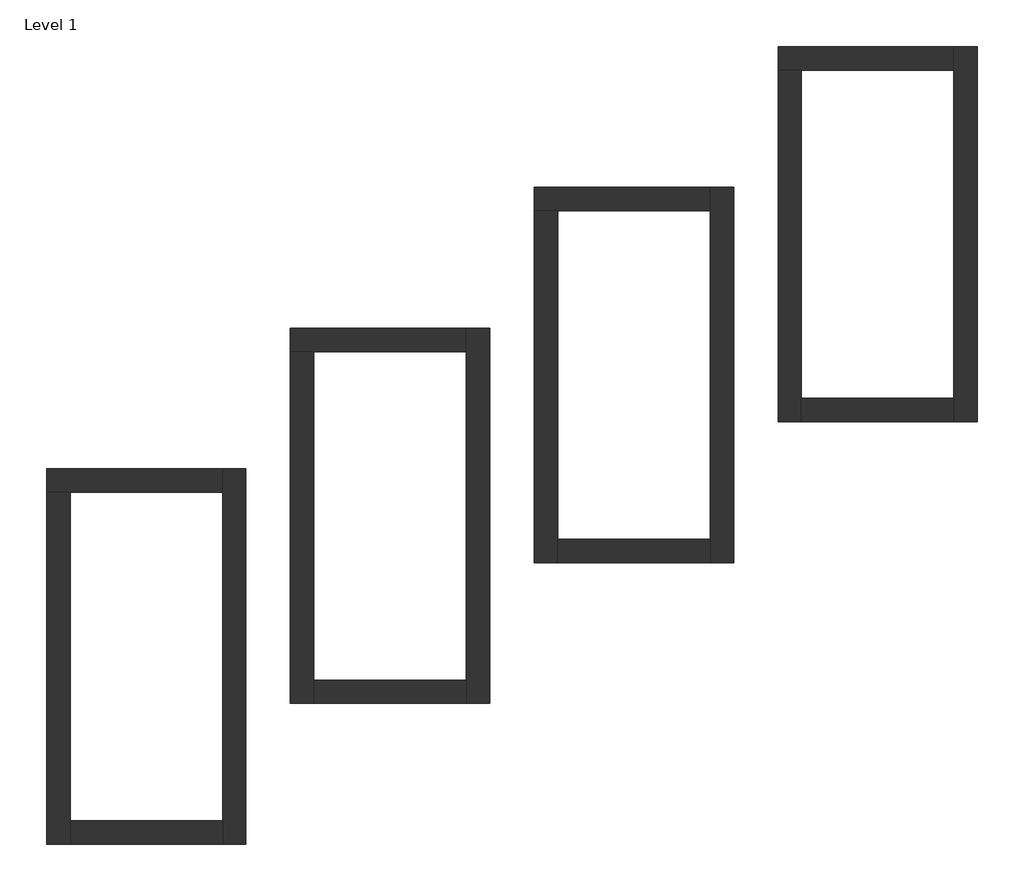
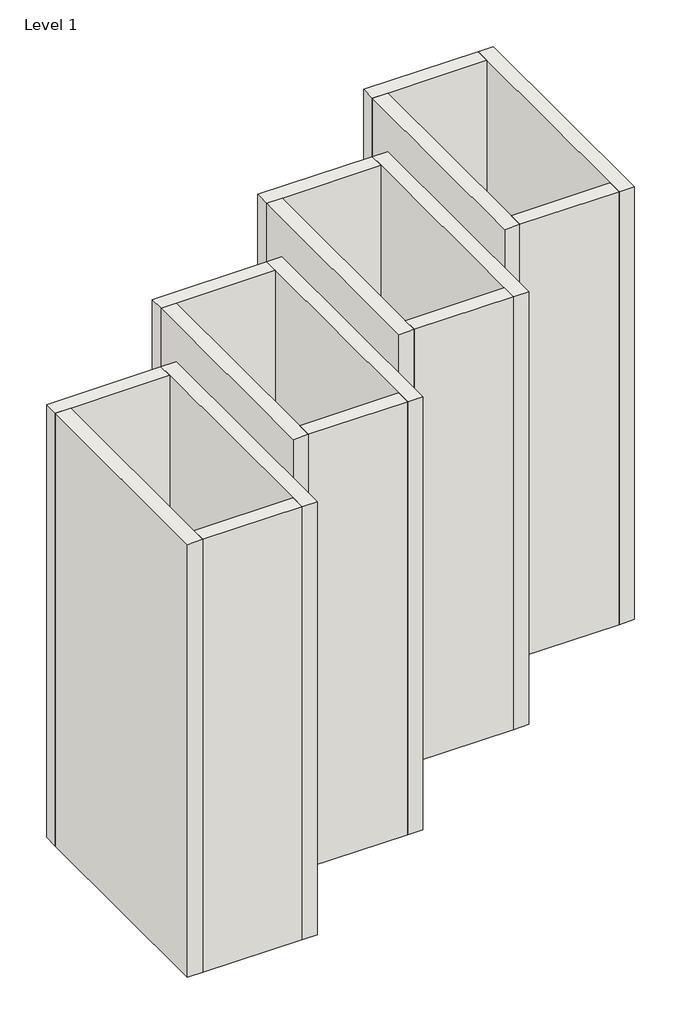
# One storey: 16 walls.
"""IFC4 building model written with IfcOpenShell, lengths in millimetres."""

import ifcopenshell
import ifcopenshell.guid

model = None  # the IFC model being written
_history = None  # IfcOwnerHistory: only IFC2X3 demands one
_inside = {}  # id of a spatial element -> (the spatial element, [elements in it])
_under = {}  # id of a project, library or spatial element -> (it, [spatial elements below it])
_declared = {}  # id of a project -> (the project, [libraries it declares])
_typed = {}  # id of a type object -> (the type object, [elements of that type])
_made_of = {}  # id of a material, layer set ... -> (it, [elements and type objects made of it])


def new_model(schema):
    """Start an empty IFC model of exactly this schema.

    Asked for "IFC4X3", IfcOpenShell would pick the latest addendum, in which some entities
    have other attributes; the version numbers below select the first issue.
    IFC2X3 requires an IfcOwnerHistory on every rooted entity: one is made here for all.
    """
    global model, _history
    if schema == "IFC4X3":
        model = ifcopenshell.file(schema_version=(4, 3, 0, 0))
    else:
        model = ifcopenshell.file(schema=schema)
    _inside.clear()
    _under.clear()
    _declared.clear()
    _typed.clear()
    _made_of.clear()
    _history = None
    if model.schema == "IFC2X3":
        org = make("IfcOrganization", Name="unknown")
        user = make(
            "IfcPersonAndOrganization",
            ThePerson=make("IfcPerson", FamilyName="unknown"),
            TheOrganization=org,
        )
        app = make(
            "IfcApplication",
            ApplicationDeveloper=org,
            Version="unknown",
            ApplicationFullName="unknown",
            ApplicationIdentifier="unknown",
        )
        _history = make(
            "IfcOwnerHistory",
            OwningUser=user,
            OwningApplication=app,
            ChangeAction="ADDED",
            CreationDate=0,
        )
    return model


def make(cls, **values):
    """One entity of the class cls with the attributes given. An attribute that is None is left unset."""
    return model.create_entity(
        cls, **{name: value for name, value in values.items() if value is not None}
    )


def rooted(cls, **values):
    """An entity with a GlobalId (a new one), such as an element, a storey or a relation."""
    return make(cls, GlobalId=ifcopenshell.guid.new(), OwnerHistory=_history, **values)


def si_unit(unit_type, name, prefix=None):
    """IfcSIUnit, for example si_unit("LENGTHUNIT", "METRE", prefix="MILLI")."""
    return make("IfcSIUnit", UnitType=unit_type, Prefix=prefix, Name=name)


def assignment(units):
    """IfcUnitAssignment: the units of a project."""
    return None if units is None else make("IfcUnitAssignment", Units=units)


def point(xyz):
    """IfcCartesianPoint."""
    return None if xyz is None else make("IfcCartesianPoint", Coordinates=xyz)


def direction(xyz):
    """IfcDirection."""
    return None if xyz is None else make("IfcDirection", DirectionRatios=xyz)


def frame(location, z_axis=None, x_axis=None):
    """IfcAxis2Placement3D, a coordinate frame: its origin and axes. An axis left out is left unset."""
    return make(
        "IfcAxis2Placement3D",
        Location=point(location),
        Axis=direction(z_axis),
        RefDirection=direction(x_axis),
    )


def origin():
    """The frame at (0, 0, 0) with its axes left unset."""
    return frame((0.0, 0.0, 0.0))


def origin_with_axes():
    """The frame at (0, 0, 0) with the z axis (0, 0, 1) and the x axis (1, 0, 0) written out."""
    return frame((0.0, 0.0, 0.0), z_axis=(0.0, 0.0, 1.0), x_axis=(1.0, 0.0, 0.0))


def place(relative_to, where):
    """IfcLocalPlacement: puts the frame where relative to a parent placement (None: the world)."""
    return make(
        "IfcLocalPlacement", PlacementRelTo=relative_to, RelativePlacement=where
    )


def context(
    kind, dimensions, precision=None, world=None, true_north=None, identifier=None
):
    """IfcGeometricRepresentationContext, for example the 3D "Model" context."""
    return make(
        "IfcGeometricRepresentationContext",
        ContextIdentifier=identifier,
        ContextType=kind,
        CoordinateSpaceDimension=dimensions,
        Precision=precision,
        WorldCoordinateSystem=world,
        TrueNorth=true_north,
    )


def project(units=None, contexts=None):
    """IfcProject with its units and contexts."""
    return rooted(
        "IfcProject",
        Name="project",
        RepresentationContexts=contexts,
        UnitsInContext=assignment(units),
    )


def spatial(cls, under=None, at=None, **own):
    """A site, building, storey or space (cls), placed at a placement, below another one or the project."""
    s = rooted(cls, ObjectPlacement=at, **own)
    if under is not None:
        _under.setdefault(under.id(), (under, []))[1].append(s)
    return s


def polyline(points):
    """IfcPolyline through the points."""
    return make("IfcPolyline", Points=[point(p) for p in points])


def outline(outer, holes=None, kind="AREA"):
    """IfcArbitraryClosedProfileDef: a profile drawn as a closed curve; with holes, ...WithVoids."""
    if holes is None:
        return make("IfcArbitraryClosedProfileDef", ProfileType=kind, OuterCurve=outer)
    return make(
        "IfcArbitraryProfileDefWithVoids",
        ProfileType=kind,
        OuterCurve=outer,
        InnerCurves=holes,
    )


def extrude(swept, where, along, depth):
    """IfcExtrudedAreaSolid: the profile swept, set in the frame where, extruded along a direction by depth."""
    return make(
        "IfcExtrudedAreaSolid",
        SweptArea=swept,
        Position=where,
        ExtrudedDirection=direction(along),
        Depth=depth,
    )


def faces_of(points, faces, orient=None, outer=None):
    """IfcFace entities. A face is a list of loops; a loop is a list of indices into points, from 0.

    orient and outer hold one flag for each loop. By default every Orientation is true, the
    first loop of a face is its IfcFaceOuterBound and the others are IfcFaceBound.
    """
    made = []
    for i, loops in enumerate(faces):
        bounds = []
        for j, loop in enumerate(loops):
            is_outer = j == 0 if outer is None else outer[i][j]
            bounds.append(
                make(
                    "IfcFaceOuterBound" if is_outer else "IfcFaceBound",
                    Bound=make("IfcPolyLoop", Polygon=[points[k] for k in loop]),
                    Orientation=True if orient is None else orient[i][j],
                )
            )
        made.append(make("IfcFace", Bounds=bounds))
    return made


def faceted_brep(points, faces, orient=None, outer=None, voids=None):
    """IfcFacetedBrep: a solid bounded by flat faces; with voids (closed shells), ...WithVoids."""
    shared = [point(p) for p in points]
    hull = make("IfcClosedShell", CfsFaces=faces_of(shared, faces, orient, outer))
    if voids is None:
        return make("IfcFacetedBrep", Outer=hull)
    return make(
        "IfcFacetedBrepWithVoids",
        Outer=hull,
        Voids=[
            make(cls, CfsFaces=faces_of(shared, fs, o, b)) for cls, fs, o, b in voids
        ],
    )


def shape(context_of_items, identifier, shape_type, items):
    """IfcShapeRepresentation: the items that make up one representation, for example the "Body"."""
    return make(
        "IfcShapeRepresentation",
        ContextOfItems=context_of_items,
        RepresentationIdentifier=identifier,
        RepresentationType=shape_type,
        Items=items,
    )


def made_of(thing, what):
    """Note that an element or type object is made of a material, layer set ...; save() writes the relation."""
    if what is not None:
        _made_of.setdefault(what.id(), (what, []))[1].append(thing)
    return thing


def element(
    cls,
    number,
    at=None,
    inside=None,
    cuts=None,
    type_object=None,
    material=None,
    context=None,
    identifier="Body",
    shape_type=None,
    held_by="IfcProductDefinitionShape",
    body=None,
    shapes=None,
    **own,
):
    """One element of the class cls, such as IfcWall. Its Tag is "e" and its number.

    at: its placement. inside: the storey or other place that contains it. cuts: it is an
    opening in that element (IfcRelVoidsElement). A single representation is given by context,
    identifier, shape_type and body (its items); several are given by shapes. held_by: the class
    of the entity that holds the representations. save() writes the other relations.
    """
    e = rooted(cls, Tag="e%d" % number, ObjectPlacement=at, **own)
    if body is not None:
        shapes = [shape(context, identifier, shape_type, body)]
    if shapes is not None:
        e.Representation = make(held_by, Representations=shapes)
    if inside is not None:
        _inside.setdefault(inside.id(), (inside, []))[1].append(e)
    if cuts is not None:
        rooted(
            "IfcRelVoidsElement", RelatingBuildingElement=cuts, RelatedOpeningElement=e
        )
    if type_object is not None:
        _typed.setdefault(type_object.id(), (type_object, []))[1].append(e)
    return made_of(e, material)


def aggregate(whole, parts):
    """IfcRelAggregates: a whole, such as a stair, and the parts it consists of."""
    return rooted("IfcRelAggregates", RelatingObject=whole, RelatedObjects=parts)


def save(model, path):
    """Write the relations noted so far, then the file.

    IfcRelAggregates (storeys below a building ...), IfcRelContainedInSpatialStructure (elements
    in a storey), IfcRelDefinesByType, IfcRelAssociatesMaterial and IfcRelDeclares: one each for
    every whole, place, type object, material and project.
    """
    for whole, parts in _under.values():
        aggregate(whole, parts)
    for where, things in _inside.values():
        rooted(
            "IfcRelContainedInSpatialStructure",
            RelatedElements=things,
            RelatingStructure=where,
        )
    for kind, things in _typed.values():
        rooted("IfcRelDefinesByType", RelatedObjects=things, RelatingType=kind)
    for what, things in _made_of.values():
        rooted("IfcRelAssociatesMaterial", RelatedObjects=things, RelatingMaterial=what)
    for by, libraries in _declared.values():
        rooted("IfcRelDeclares", RelatingContext=by, RelatedDefinitions=libraries)
    model.write(path)


model = new_model("IFC4")

# Units and contexts
model_context = context("Model", 3, world=origin())
ifc_project = project(units=[si_unit("LENGTHUNIT", "METRE", prefix="MILLI")], contexts=[model_context])

# Site, building, storey
site = spatial("IfcSite", under=ifc_project)
building = spatial("IfcBuilding", under=site)
storey = spatial("IfcBuildingStorey", under=building, Name="Level 1", Elevation=0.0)

# Walls
placement = place(None, origin())
element("IfcWall", 1, ObjectType="Generic - 8\"", at=placement, inside=storey, context=model_context, shape_type="Brep", body=[
    faceted_brep([(-852.706997, 219.0388617, 0.0), (-649.506997, 219.0388617, 0.0), (671.293003, 219.0388617, 0.0), (671.293003, 219.0388617, 6096.0), (-649.506997, 219.0388617, 6096.0), (-852.706997, 219.0388617, 6096.0), (-852.706997, 422.2388617, 0.0), (-852.706997, 422.2388617, 6096.0), (671.293003, 422.2388617, 6096.0), (671.293003, 422.2388617, 0.0)], [[[0, 1, 2, 3, 4, 5]], [[6, 7, 8, 9]], [[2, 1, 0, 6, 9]], [[5, 4, 3, 8, 7]], [[0, 5, 7, 6]], [[3, 2, 9, 8]]]),
])
element("IfcWall", 2, ObjectType="Generic - 8\"", at=placement, inside=storey, context=model_context, shape_type="Brep", body=[
    faceted_brep([(-649.506997, -2828.9611383, 0.0), (-649.506997, -2625.7611383, 0.0), (-649.506997, 219.0388617, 0.0), (-649.506997, 219.0388617, 6096.0), (-649.506997, -2625.7611383, 6096.0), (-649.506997, -2828.9611383, 6096.0), (-852.706997, -2828.9611383, 0.0), (-852.706997, -2828.9611383, 6096.0), (-852.706997, 219.0388617, 6096.0), (-852.706997, 219.0388617, 0.0)], [[[0, 1, 2, 3, 4, 5]], [[6, 7, 8, 9]], [[2, 1, 0, 6, 9]], [[5, 4, 3, 8, 7]], [[0, 5, 7, 6]], [[3, 2, 9, 8]]]),
])
element("IfcWall", 3, ObjectType="Generic - 8\"", at=placement, inside=storey, context=model_context, shape_type="SweptSolid", body=[
    extrude(outline(polyline([(-649.506997, -2625.7611383), (671.293003, -2625.7611383), (671.293003, -2828.9611383), (-649.506997, -2828.9611383), (-649.506997, -2625.7611383)])), origin_with_axes(), (0.0, 0.0, 1.0), 6096.0),
])
element("IfcWall", 4, ObjectType="Generic - 8\"", at=placement, inside=storey, context=model_context, shape_type="Brep", body=[
    faceted_brep([(671.293003, 422.2388617, 0.0), (671.293003, 219.0388617, 0.0), (671.293003, -2625.7611383, 0.0), (671.293003, -2828.9611383, 0.0), (671.293003, -2828.9611383, 6096.0), (671.293003, -2625.7611383, 6096.0), (671.293003, 219.0388617, 6096.0), (671.293003, 422.2388617, 6096.0), (874.493003, 422.2388617, 0.0), (874.493003, 422.2388617, 6096.0), (874.493003, -2828.9611383, 6096.0), (874.493003, -2828.9611383, 0.0)], [[[0, 1, 2, 3, 4, 5, 6, 7]], [[8, 9, 10, 11]], [[3, 2, 1, 0, 8, 11]], [[7, 6, 5, 4, 10, 9]], [[0, 7, 9, 8]], [[4, 3, 11, 10]]]),
])
element("IfcWall", 5, ObjectType="Generic - 8\"", at=placement, inside=storey, context=model_context, shape_type="Brep", body=[
    faceted_brep([(1259.0093476, 1438.2388617, 0.0), (1462.2093476, 1438.2388617, 0.0), (2783.0093476, 1438.2388617, 0.0), (2783.0093476, 1438.2388617, 6096.0), (1462.2093476, 1438.2388617, 6096.0), (1259.0093476, 1438.2388617, 6096.0), (1259.0093476, 1641.4388617, 0.0), (1259.0093476, 1641.4388617, 6096.0), (2783.0093476, 1641.4388617, 6096.0), (2783.0093476, 1641.4388617, 0.0)], [[[0, 1, 2, 3, 4, 5]], [[6, 7, 8, 9]], [[2, 1, 0, 6, 9]], [[5, 4, 3, 8, 7]], [[0, 5, 7, 6]], [[3, 2, 9, 8]]]),
])
element("IfcWall", 6, ObjectType="Generic - 8\"", at=placement, inside=storey, context=model_context, shape_type="Brep", body=[
    faceted_brep([(1462.2093476, -1609.7611383, 0.0), (1462.2093476, -1406.5611383, 0.0), (1462.2093476, 1438.2388617, 0.0), (1462.2093476, 1438.2388617, 6096.0), (1462.2093476, -1406.5611383, 6096.0), (1462.2093476, -1609.7611383, 6096.0), (1259.0093476, -1609.7611383, 0.0), (1259.0093476, -1609.7611383, 6096.0), (1259.0093476, 1438.2388617, 6096.0), (1259.0093476, 1438.2388617, 0.0)], [[[0, 1, 2, 3, 4, 5]], [[6, 7, 8, 9]], [[2, 1, 0, 6, 9]], [[5, 4, 3, 8, 7]], [[0, 5, 7, 6]], [[3, 2, 9, 8]]]),
])
element("IfcWall", 7, ObjectType="Generic - 8\"", at=placement, inside=storey, context=model_context, shape_type="SweptSolid", body=[
    extrude(outline(polyline([(1462.2093476, -1406.5611383), (2783.0093476, -1406.5611383), (2783.0093476, -1609.7611383), (1462.2093476, -1609.7611383), (1462.2093476, -1406.5611383)])), origin_with_axes(), (0.0, 0.0, 1.0), 6096.0),
])
element("IfcWall", 8, ObjectType="Generic - 8\"", at=placement, inside=storey, context=model_context, shape_type="Brep", body=[
    faceted_brep([(2783.0093476, 1641.4388617, 0.0), (2783.0093476, 1438.2388617, 0.0), (2783.0093476, -1406.5611383, 0.0), (2783.0093476, -1609.7611383, 0.0), (2783.0093476, -1609.7611383, 6096.0), (2783.0093476, -1406.5611383, 6096.0), (2783.0093476, 1438.2388617, 6096.0), (2783.0093476, 1641.4388617, 6096.0), (2986.2093476, 1641.4388617, 0.0), (2986.2093476, 1641.4388617, 6096.0), (2986.2093476, -1609.7611383, 6096.0), (2986.2093476, -1609.7611383, 0.0)], [[[0, 1, 2, 3, 4, 5, 6, 7]], [[8, 9, 10, 11]], [[3, 2, 1, 0, 8, 11]], [[7, 6, 5, 4, 10, 9]], [[0, 7, 9, 8]], [[4, 3, 11, 10]]]),
])
element("IfcWall", 9, ObjectType="Generic - 8\"", at=placement, inside=storey, context=model_context, shape_type="Brep", body=[
    faceted_brep([(3370.7256922, 2657.4388617, 0.0), (3573.9256922, 2657.4388617, 0.0), (4894.7256922, 2657.4388617, 0.0), (4894.7256922, 2657.4388617, 6096.0), (3573.9256922, 2657.4388617, 6096.0), (3370.7256922, 2657.4388617, 6096.0), (3370.7256922, 2860.6388617, 0.0), (3370.7256922, 2860.6388617, 6096.0), (4894.7256922, 2860.6388617, 6096.0), (4894.7256922, 2860.6388617, 0.0)], [[[0, 1, 2, 3, 4, 5]], [[6, 7, 8, 9]], [[2, 1, 0, 6, 9]], [[5, 4, 3, 8, 7]], [[0, 5, 7, 6]], [[3, 2, 9, 8]]]),
])
element("IfcWall", 10, ObjectType="Generic - 8\"", at=placement, inside=storey, context=model_context, shape_type="Brep", body=[
    faceted_brep([(3573.9256922, -390.5611383, 0.0), (3573.9256922, -187.3611383, 0.0), (3573.9256922, 2657.4388617, 0.0), (3573.9256922, 2657.4388617, 6096.0), (3573.9256922, -187.3611383, 6096.0), (3573.9256922, -390.5611383, 6096.0), (3370.7256922, -390.5611383, 0.0), (3370.7256922, -390.5611383, 6096.0), (3370.7256922, 2657.4388617, 6096.0), (3370.7256922, 2657.4388617, 0.0)], [[[0, 1, 2, 3, 4, 5]], [[6, 7, 8, 9]], [[2, 1, 0, 6, 9]], [[5, 4, 3, 8, 7]], [[0, 5, 7, 6]], [[3, 2, 9, 8]]]),
])
element("IfcWall", 11, ObjectType="Generic - 8\"", at=placement, inside=storey, context=model_context, shape_type="SweptSolid", body=[
    extrude(outline(polyline([(3573.9256922, -187.3611383), (4894.7256922, -187.3611383), (4894.7256922, -390.5611383), (3573.9256922, -390.5611383), (3573.9256922, -187.3611383)])), origin_with_axes(), (0.0, 0.0, 1.0), 6096.0),
])
element("IfcWall", 12, ObjectType="Generic - 8\"", at=placement, inside=storey, context=model_context, shape_type="Brep", body=[
    faceted_brep([(4894.7256922, 2860.6388617, 0.0), (4894.7256922, 2657.4388617, 0.0), (4894.7256922, -187.3611383, 0.0), (4894.7256922, -390.5611383, 0.0), (4894.7256922, -390.5611383, 6096.0), (4894.7256922, -187.3611383, 6096.0), (4894.7256922, 2657.4388617, 6096.0), (4894.7256922, 2860.6388617, 6096.0), (5097.9256922, 2860.6388617, 0.0), (5097.9256922, 2860.6388617, 6096.0), (5097.9256922, -390.5611383, 6096.0), (5097.9256922, -390.5611383, 0.0)], [[[0, 1, 2, 3, 4, 5, 6, 7]], [[8, 9, 10, 11]], [[3, 2, 1, 0, 8, 11]], [[7, 6, 5, 4, 10, 9]], [[0, 7, 9, 8]], [[4, 3, 11, 10]]]),
])
element("IfcWall", 13, ObjectType="Generic - 8\"", at=placement, inside=storey, context=model_context, shape_type="Brep", body=[
    faceted_brep([(5482.4420367, 3876.6388617, 0.0), (5685.6420367, 3876.6388617, 0.0), (7006.4420367, 3876.6388617, 0.0), (7006.4420367, 3876.6388617, 6096.0), (5685.6420367, 3876.6388617, 6096.0), (5482.4420367, 3876.6388617, 6096.0), (5482.4420367, 4079.8388617, 0.0), (5482.4420367, 4079.8388617, 6096.0), (7006.4420367, 4079.8388617, 6096.0), (7006.4420367, 4079.8388617, 0.0)], [[[0, 1, 2, 3, 4, 5]], [[6, 7, 8, 9]], [[2, 1, 0, 6, 9]], [[5, 4, 3, 8, 7]], [[0, 5, 7, 6]], [[3, 2, 9, 8]]]),
])
element("IfcWall", 14, ObjectType="Generic - 8\"", at=placement, inside=storey, context=model_context, shape_type="Brep", body=[
    faceted_brep([(5685.6420367, 828.6388617, 0.0), (5685.6420367, 1031.8388617, 0.0), (5685.6420367, 3876.6388617, 0.0), (5685.6420367, 3876.6388617, 6096.0), (5685.6420367, 1031.8388617, 6096.0), (5685.6420367, 828.6388617, 6096.0), (5482.4420367, 828.6388617, 0.0), (5482.4420367, 828.6388617, 6096.0), (5482.4420367, 3876.6388617, 6096.0), (5482.4420367, 3876.6388617, 0.0)], [[[0, 1, 2, 3, 4, 5]], [[6, 7, 8, 9]], [[2, 1, 0, 6, 9]], [[5, 4, 3, 8, 7]], [[0, 5, 7, 6]], [[3, 2, 9, 8]]]),
])
element("IfcWall", 15, ObjectType="Generic - 8\"", at=placement, inside=storey, context=model_context, shape_type="SweptSolid", body=[
    extrude(outline(polyline([(5685.6420367, 1031.8388617), (7006.4420367, 1031.8388617), (7006.4420367, 828.6388617), (5685.6420367, 828.6388617), (5685.6420367, 1031.8388617)])), origin_with_axes(), (0.0, 0.0, 1.0), 6096.0),
])
element("IfcWall", 16, ObjectType="Generic - 8\"", at=placement, inside=storey, context=model_context, shape_type="Brep", body=[
    faceted_brep([(7006.4420367, 4079.8388617, 0.0), (7006.4420367, 3876.6388617, 0.0), (7006.4420367, 1031.8388617, 0.0), (7006.4420367, 828.6388617, 0.0), (7006.4420367, 828.6388617, 6096.0), (7006.4420367, 1031.8388617, 6096.0), (7006.4420367, 3876.6388617, 6096.0), (7006.4420367, 4079.8388617, 6096.0), (7209.6420367, 4079.8388617, 0.0), (7209.6420367, 4079.8388617, 6096.0), (7209.6420367, 828.6388617, 6096.0), (7209.6420367, 828.6388617, 0.0)], [[[0, 1, 2, 3, 4, 5, 6, 7]], [[8, 9, 10, 11]], [[3, 2, 1, 0, 8, 11]], [[7, 6, 5, 4, 10, 9]], [[0, 7, 9, 8]], [[4, 3, 11, 10]]]),
])

save(model, "model.ifc")
